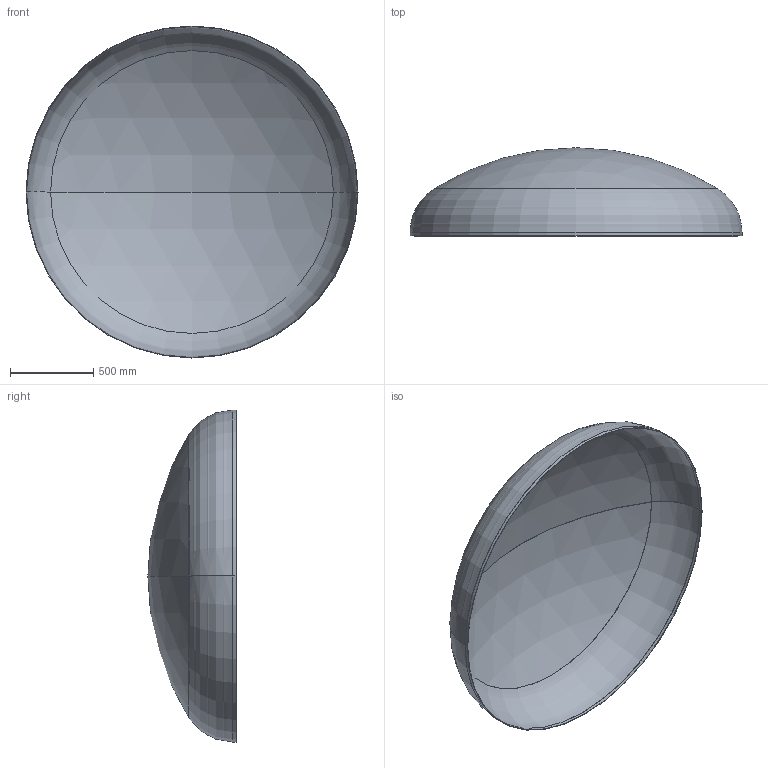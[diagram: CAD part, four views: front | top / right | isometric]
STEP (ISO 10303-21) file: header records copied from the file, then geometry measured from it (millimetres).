
FILE_DESCRIPTION (( 'STEP AP203' ), '1' );
FILE_NAME ('DIN 28013 Korbbogenform_-_Boden DIN 28013 - 2000 x 20 - I - s=3.step', '2016-07-01T13:31:53', ( '' ), ( '' ), 'SwSTEP 2.0', 'SolidWorks 2013', '' );
FILE_SCHEMA (( 'CONFIG_CONTROL_DESIGN' ));
Length unit declared in the file: millimetre
Products named in the file (1): DIN 28013 Korbbogenform_-_Boden DIN 28013 - 2000 x 20 - I - s=3
Bounding box: 2000 x 531.15 x 2000 mm (x, y, z)
Volume: 13421497 mm3; surface area: 8966501.2 mm2
Topology: 1 solids, 1 shells, 13 faces, 24 edges, 14 vertices
Faces by surface type: torus 4, cylinder 4, sphere 4, plane 1
Entity records: 407 total; most frequent: DIRECTION 72, CARTESIAN_POINT 52, ORIENTED_EDGE 48, AXIS2_PLACEMENT_3D 34, EDGE_CURVE 24, CIRCLE 20, EDGE_LOOP 14, VERTEX_POINT 14
